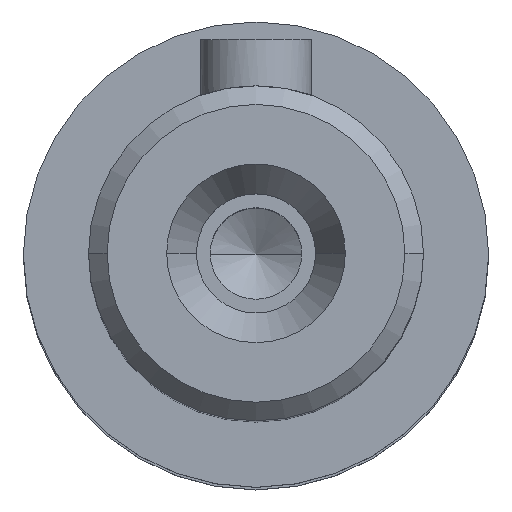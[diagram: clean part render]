
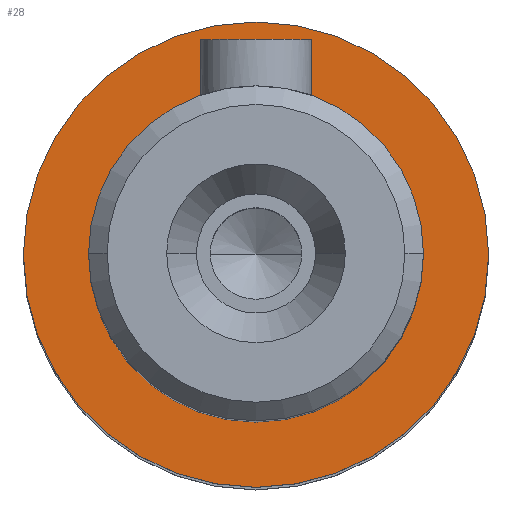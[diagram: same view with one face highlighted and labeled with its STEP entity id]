
A CAD part, top view. The second image highlights one B-rep face of the part: STEP entity #28.
In plain terms, the highlighted planar face has unit normal (0, 0, 1) as drawn and (1, 0, 0) by its records, which use the part's own axes.
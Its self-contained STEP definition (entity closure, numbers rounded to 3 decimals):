
#28=ADVANCED_FACE('',(#86,#72),#706,.T.);
#72=FACE_BOUND('',#141,.T.);
#86=FACE_OUTER_BOUND('',#140,.T.);
#140=EDGE_LOOP('',(#231,#232));
#141=EDGE_LOOP('',(#233,#234));
#231=ORIENTED_EDGE('',*,*,#458,.F.);
#232=ORIENTED_EDGE('',*,*,#397,.F.);
#233=ORIENTED_EDGE('',*,*,#448,.F.);
#234=ORIENTED_EDGE('',*,*,#387,.F.);
#387=EDGE_CURVE('',#638,#672,#531,.T.);
#397=EDGE_CURVE('',#646,#679,#537,.T.);
#448=EDGE_CURVE('',#672,#638,#560,.T.);
#458=EDGE_CURVE('',#679,#646,#566,.T.);
#531=TRIMMED_CURVE($,#580,(#1382),(#1383),.T.,.CARTESIAN.);
#537=TRIMMED_CURVE($,#586,(#1408),(#1409),.T.,.CARTESIAN.);
#560=TRIMMED_CURVE($,#609,(#1553),(#1554),.T.,.CARTESIAN.);
#566=TRIMMED_CURVE($,#615,(#1579),(#1580),.T.,.CARTESIAN.);
#580=CIRCLE('',#953,9.);
#586=CIRCLE('',#959,12.5);
#609=CIRCLE('',#982,9.);
#615=CIRCLE('',#988,12.5);
#638=VERTEX_POINT('',#1313);
#646=VERTEX_POINT('',#1321);
#672=VERTEX_POINT('',#1347);
#679=VERTEX_POINT('',#1354);
#706=PLANE('',#924);
#924=AXIS2_PLACEMENT_3D('',#1165,#1015,$);
#953=AXIS2_PLACEMENT_3D($,#1381,#1046,#1047);
#959=AXIS2_PLACEMENT_3D($,#1407,#1058,#1059);
#982=AXIS2_PLACEMENT_3D($,#1552,#1104,#1105);
#988=AXIS2_PLACEMENT_3D($,#1578,#1116,#1117);
#1015=DIRECTION('',(1.,0.,0.));
#1046=DIRECTION('',(1.,0.,0.));
#1047=DIRECTION('',(0.,0.,-1.));
#1058=DIRECTION('',(-1.,0.,0.));
#1059=DIRECTION('',(0.,0.,-1.));
#1104=DIRECTION('',(1.,0.,0.));
#1105=DIRECTION('',(0.,0.,1.));
#1116=DIRECTION('',(-1.,0.,0.));
#1117=DIRECTION('',(0.,0.,1.));
#1165=CARTESIAN_POINT('',(42.,-15.06,-15.06));
#1313=CARTESIAN_POINT('',(42.,0.,-9.));
#1321=CARTESIAN_POINT('',(42.,0.,-12.5));
#1347=CARTESIAN_POINT('',(42.,0.,9.));
#1354=CARTESIAN_POINT('',(42.,0.,12.5));
#1381=CARTESIAN_POINT('',(42.,0.,0.));
#1382=CARTESIAN_POINT('',(42.,0.,-9.));
#1383=CARTESIAN_POINT('',(42.,0.,9.));
#1407=CARTESIAN_POINT('',(42.,0.,0.));
#1408=CARTESIAN_POINT('',(42.,0.,-12.5));
#1409=CARTESIAN_POINT('',(42.,0.,12.5));
#1552=CARTESIAN_POINT('',(42.,0.,0.));
#1553=CARTESIAN_POINT('',(42.,0.,9.));
#1554=CARTESIAN_POINT('',(42.,0.,-9.));
#1578=CARTESIAN_POINT('',(42.,0.,0.));
#1579=CARTESIAN_POINT('',(42.,0.,12.5));
#1580=CARTESIAN_POINT('',(42.,0.,-12.5));
